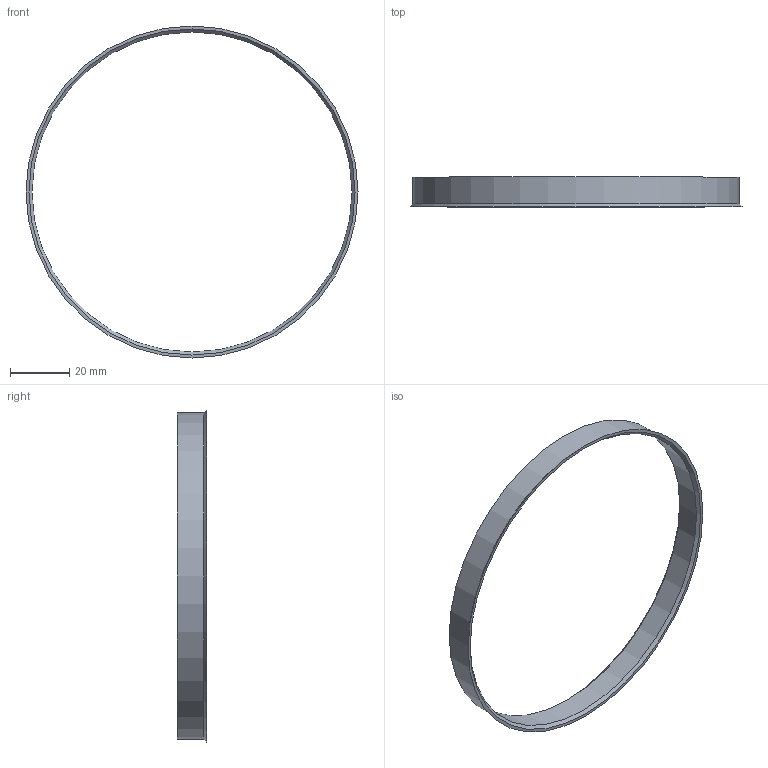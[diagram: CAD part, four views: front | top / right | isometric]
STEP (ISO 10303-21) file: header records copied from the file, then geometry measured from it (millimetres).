
FILE_DESCRIPTION(/* description */ (''),/* implementation_level */ '2;1');
FILE_NAME(/* name */ 'G:\CAD Library\Team Tasks\DIPP\11th Intake\Bradley Coles\Design Drafting\Random\Hub Rings\HubRings.stp\HubRing_110-108.stp',/* time_stamp */ '2025-07-22T13:39:44+08:00',/* author */ ('BCOLES'),/* organization */ (''),/* preprocessor_version */ 'ST-DEVELOPER v18.1',/* originating_system */ 'Autodesk Inventor 2022',/* authorisation */ '');
FILE_SCHEMA (('AUTOMOTIVE_DESIGN { 1 0 10303 214 3 1 1 }'));
Length unit declared in the file: millimetre
Products named in the file (1): HubRing_110-108
Bounding box: 112 x 10 x 112 mm (x, y, z)
Volume: 3256.8 mm3; surface area: 7634.9 mm2
Topology: 1 solids, 1 shells, 6 faces, 13 edges, 8 vertices
Faces by surface type: cone 3, cylinder 2, plane 1
Full cylindrical faces by diameter (mm): 108 x1, 110 x1
Entity records: 216 total; most frequent: DIRECTION 35, CARTESIAN_POINT 28, ORIENTED_EDGE 26, AXIS2_PLACEMENT_3D 15, EDGE_CURVE 13, CIRCLE 8, VERTEX_POINT 8, EDGE_LOOP 7
